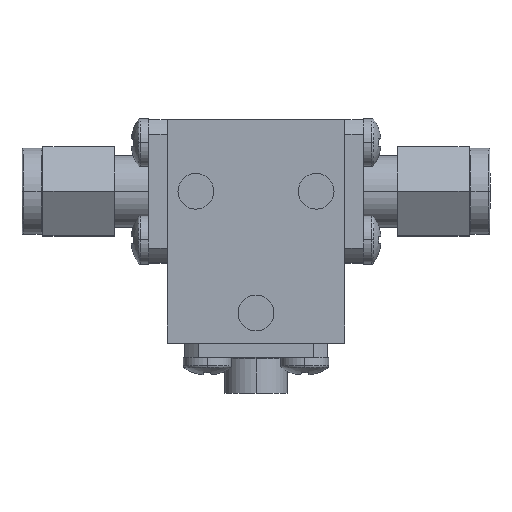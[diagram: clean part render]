
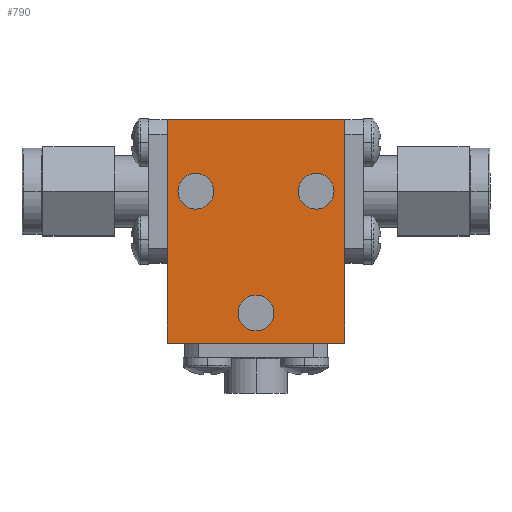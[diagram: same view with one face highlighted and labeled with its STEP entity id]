
A CAD part, top view. The second image highlights one B-rep face of the part: STEP entity #790.
In plain terms, the highlighted planar face has unit normal (0, 0, 1) as drawn and (0, 0, -1) by its records, which use the part's own axes.
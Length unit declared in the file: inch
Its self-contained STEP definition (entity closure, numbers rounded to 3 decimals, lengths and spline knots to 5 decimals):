
#9 = ORIENTED_EDGE ( 'NONE', *, *, #337, .T. ) ;
#63 = DIRECTION ( 'NONE',  ( 1., 0., 0. ) ) ;
#148 = AXIS2_PLACEMENT_3D ( 'NONE', #4105, #2070, #63 ) ;
#159 = DIRECTION ( 'NONE',  ( -1., 0., 0. ) ) ;
#173 = EDGE_LOOP ( 'NONE', ( #2041, #3114 ) ) ;
#202 = DIRECTION ( 'NONE',  ( 0., 0., 1. ) ) ;
#250 = AXIS2_PLACEMENT_3D ( 'NONE', #1063, #3382, #3080 ) ;
#268 = VERTEX_POINT ( 'NONE', #1398 ) ;
#276 = EDGE_CURVE ( 'NONE', #2937, #3251, #4281, .T. ) ;
#311 = FACE_BOUND ( 'NONE', #173, .T. ) ;
#329 = VERTEX_POINT ( 'NONE', #2094 ) ;
#337 = EDGE_CURVE ( 'NONE', #3251, #2937, #1099, .T. ) ;
#350 = EDGE_CURVE ( 'NONE', #1385, #4028, #2245, .T. ) ;
#368 = VECTOR ( 'NONE', #2728, 39.37008 ) ;
#523 = ORIENTED_EDGE ( 'NONE', *, *, #3692, .F. ) ;
#526 = VERTEX_POINT ( 'NONE', #3567 ) ;
#538 = LINE ( 'NONE', #4041, #368 ) ;
#569 = CARTESIAN_POINT ( 'NONE',  ( -0.21, 0.14, -0.25 ) ) ;
#574 = DIRECTION ( 'NONE',  ( 0., 0., 1. ) ) ;
#584 = VECTOR ( 'NONE', #2424, 39.37008 ) ;
#620 = CARTESIAN_POINT ( 'NONE',  ( 0.21, 0.14, -0.25 ) ) ;
#645 = CARTESIAN_POINT ( 'NONE',  ( -0.0625, -0.285, -0.25 ) ) ;
#699 = DIRECTION ( 'NONE',  ( 0., -1., 0. ) ) ;
#790 = ADVANCED_FACE ( 'NONE', ( #311, #1409, #1981, #2971 ), #3751, .F. ) ;
#958 = DIRECTION ( 'NONE',  ( 0., 0., 1. ) ) ;
#985 = VERTEX_POINT ( 'NONE', #1929 ) ;
#1002 = ORIENTED_EDGE ( 'NONE', *, *, #1817, .T. ) ;
#1063 = CARTESIAN_POINT ( 'NONE',  ( 0., -0.285, -0.25 ) ) ;
#1089 = DIRECTION ( 'NONE',  ( 0., 0., 1. ) ) ;
#1091 = EDGE_CURVE ( 'NONE', #526, #3812, #1149, .T. ) ;
#1093 = CARTESIAN_POINT ( 'NONE',  ( 0., -0.285, -0.25 ) ) ;
#1099 = CIRCLE ( 'NONE', #250, 0.0625 ) ;
#1149 = CIRCLE ( 'NONE', #2949, 0.0625 ) ;
#1288 = CARTESIAN_POINT ( 'NONE',  ( 0.31, -0.39, -0.25 ) ) ;
#1297 = DIRECTION ( 'NONE',  ( 1., 0., 0. ) ) ;
#1359 = CARTESIAN_POINT ( 'NONE',  ( -0.31, -0.39, -0.25 ) ) ;
#1385 = VERTEX_POINT ( 'NONE', #1359 ) ;
#1386 = CIRCLE ( 'NONE', #148, 0.0625 ) ;
#1398 = CARTESIAN_POINT ( 'NONE',  ( -0.31, 0.39, -0.25 ) ) ;
#1409 = FACE_BOUND ( 'NONE', #1531, .T. ) ;
#1419 = ORIENTED_EDGE ( 'NONE', *, *, #276, .T. ) ;
#1428 = VECTOR ( 'NONE', #699, 39.37008 ) ;
#1440 = VECTOR ( 'NONE', #159, 39.37008 ) ;
#1531 = EDGE_LOOP ( 'NONE', ( #9, #1419 ) ) ;
#1661 = AXIS2_PLACEMENT_3D ( 'NONE', #1093, #3417, #1773 ) ;
#1686 = ORIENTED_EDGE ( 'NONE', *, *, #1091, .T. ) ;
#1759 = CARTESIAN_POINT ( 'NONE',  ( 0.0625, -0.285, -0.25 ) ) ;
#1773 = DIRECTION ( 'NONE',  ( 1., 0., 0. ) ) ;
#1809 = AXIS2_PLACEMENT_3D ( 'NONE', #620, #958, #1297 ) ;
#1817 = EDGE_CURVE ( 'NONE', #3812, #526, #2857, .T. ) ;
#1829 = EDGE_CURVE ( 'NONE', #329, #2567, #2178, .T. ) ;
#1929 = CARTESIAN_POINT ( 'NONE',  ( 0.31, 0.39, -0.25 ) ) ;
#1981 = FACE_BOUND ( 'NONE', #2999, .T. ) ;
#2041 = ORIENTED_EDGE ( 'NONE', *, *, #2153, .T. ) ;
#2070 = DIRECTION ( 'NONE',  ( 0., 0., 1. ) ) ;
#2091 = CARTESIAN_POINT ( 'NONE',  ( -0.2725, 0.14, -0.25 ) ) ;
#2094 = CARTESIAN_POINT ( 'NONE',  ( 0.1475, 0.14, -0.25 ) ) ;
#2153 = EDGE_CURVE ( 'NONE', #2567, #329, #1386, .T. ) ;
#2165 = AXIS2_PLACEMENT_3D ( 'NONE', #569, #202, #2896 ) ;
#2178 = CIRCLE ( 'NONE', #1809, 0.0625 ) ;
#2245 = LINE ( 'NONE', #2736, #584 ) ;
#2252 = EDGE_CURVE ( 'NONE', #985, #268, #3328, .T. ) ;
#2354 = CARTESIAN_POINT ( 'NONE',  ( -0.31, 0.39, -0.25 ) ) ;
#2424 = DIRECTION ( 'NONE',  ( 1., 0., 0. ) ) ;
#2567 = VERTEX_POINT ( 'NONE', #3750 ) ;
#2676 = ORIENTED_EDGE ( 'NONE', *, *, #4316, .F. ) ;
#2728 = DIRECTION ( 'NONE',  ( 0., 1., 0. ) ) ;
#2736 = CARTESIAN_POINT ( 'NONE',  ( -0.31, -0.39, -0.25 ) ) ;
#2857 = CIRCLE ( 'NONE', #2165, 0.0625 ) ;
#2896 = DIRECTION ( 'NONE',  ( 1., 0., 0. ) ) ;
#2937 = VERTEX_POINT ( 'NONE', #645 ) ;
#2949 = AXIS2_PLACEMENT_3D ( 'NONE', #3564, #574, #3910 ) ;
#2971 = FACE_OUTER_BOUND ( 'NONE', #3397, .T. ) ;
#2999 = EDGE_LOOP ( 'NONE', ( #1686, #1002 ) ) ;
#3080 = DIRECTION ( 'NONE',  ( 1., 0., 0. ) ) ;
#3114 = ORIENTED_EDGE ( 'NONE', *, *, #1829, .T. ) ;
#3167 = ORIENTED_EDGE ( 'NONE', *, *, #2252, .F. ) ;
#3251 = VERTEX_POINT ( 'NONE', #1759 ) ;
#3328 = LINE ( 'NONE', #3864, #1440 ) ;
#3382 = DIRECTION ( 'NONE',  ( 0., 0., 1. ) ) ;
#3397 = EDGE_LOOP ( 'NONE', ( #2676, #3868, #523, #3167 ) ) ;
#3417 = DIRECTION ( 'NONE',  ( 0., 0., 1. ) ) ;
#3423 = AXIS2_PLACEMENT_3D ( 'NONE', #4131, #1089, #4145 ) ;
#3564 = CARTESIAN_POINT ( 'NONE',  ( -0.21, 0.14, -0.25 ) ) ;
#3567 = CARTESIAN_POINT ( 'NONE',  ( -0.1475, 0.14, -0.25 ) ) ;
#3692 = EDGE_CURVE ( 'NONE', #268, #1385, #4122, .T. ) ;
#3750 = CARTESIAN_POINT ( 'NONE',  ( 0.2725, 0.14, -0.25 ) ) ;
#3751 = PLANE ( 'NONE',  #3423 ) ;
#3812 = VERTEX_POINT ( 'NONE', #2091 ) ;
#3864 = CARTESIAN_POINT ( 'NONE',  ( -0.31, 0.39, -0.25 ) ) ;
#3868 = ORIENTED_EDGE ( 'NONE', *, *, #350, .F. ) ;
#3910 = DIRECTION ( 'NONE',  ( 1., 0., 0. ) ) ;
#4028 = VERTEX_POINT ( 'NONE', #1288 ) ;
#4041 = CARTESIAN_POINT ( 'NONE',  ( 0.31, 0.39, -0.25 ) ) ;
#4105 = CARTESIAN_POINT ( 'NONE',  ( 0.21, 0.14, -0.25 ) ) ;
#4122 = LINE ( 'NONE', #2354, #1428 ) ;
#4131 = CARTESIAN_POINT ( 'NONE',  ( 0., 0., -0.25 ) ) ;
#4145 = DIRECTION ( 'NONE',  ( 1., 0., 0. ) ) ;
#4281 = CIRCLE ( 'NONE', #1661, 0.0625 ) ;
#4316 = EDGE_CURVE ( 'NONE', #4028, #985, #538, .T. ) ;
